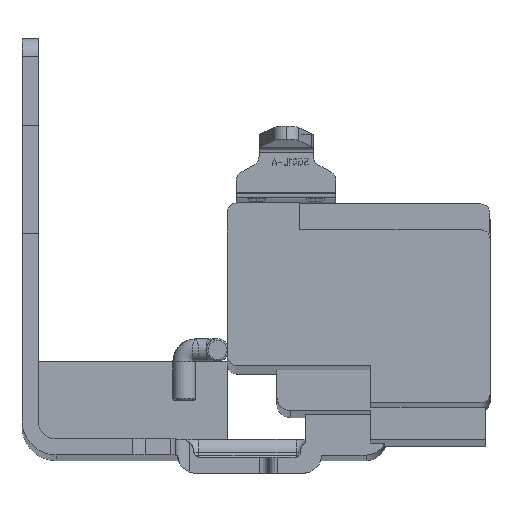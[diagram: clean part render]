
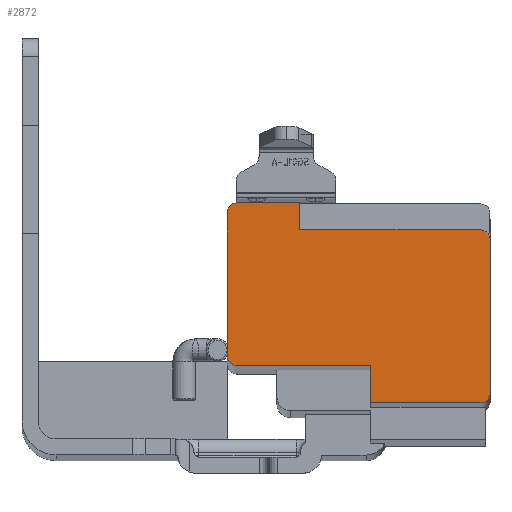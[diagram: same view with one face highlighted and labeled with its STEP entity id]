
A CAD part, top view. The second image highlights one B-rep face of the part: STEP entity #2872.
In plain terms, the highlighted planar face has unit normal (0, 0, 1).
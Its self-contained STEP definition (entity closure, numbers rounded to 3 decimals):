
#36 = ORIENTED_EDGE ( 'NONE', *, *, #3707, .T. ) ;
#69 = CARTESIAN_POINT ( 'NONE',  ( 10.55, 4., 494.3 ) ) ;
#104 = DIRECTION ( 'NONE',  ( 1., 0., 0. ) ) ;
#221 = EDGE_CURVE ( 'NONE', #6530, #4177, #3631, .T. ) ;
#302 = VERTEX_POINT ( 'NONE', #2744 ) ;
#541 = EDGE_CURVE ( 'NONE', #9667, #618, #10396, .T. ) ;
#618 = VERTEX_POINT ( 'NONE', #1539 ) ;
#722 = CIRCLE ( 'NONE', #1999, 1. ) ;
#746 = CARTESIAN_POINT ( 'NONE',  ( 30.58, -18.1, 494.3 ) ) ;
#1022 = VECTOR ( 'NONE', #3388, 1000. ) ;
#1171 = AXIS2_PLACEMENT_3D ( 'NONE', #3830, #10141, #4722 ) ;
#1539 = CARTESIAN_POINT ( 'NONE',  ( 10.55, 1., 494.3 ) ) ;
#1578 = CARTESIAN_POINT ( 'NONE',  ( 30.61, 1., 494.3 ) ) ;
#1748 = ORIENTED_EDGE ( 'NONE', *, *, #541, .F. ) ;
#1884 = CARTESIAN_POINT ( 'NONE',  ( 3.55, 4., 494.3 ) ) ;
#1956 = CIRCLE ( 'NONE', #8742, 1. ) ;
#1999 = AXIS2_PLACEMENT_3D ( 'NONE', #10891, #5477, #104 ) ;
#2110 = CARTESIAN_POINT ( 'NONE',  ( 2.55, 0., 494.3 ) ) ;
#2253 = CARTESIAN_POINT ( 'NONE',  ( 2.55, 3., 494.3 ) ) ;
#2274 = CARTESIAN_POINT ( 'NONE',  ( 18.38, -14., 494.3 ) ) ;
#2336 = EDGE_CURVE ( 'NONE', #5685, #4144, #7252, .T. ) ;
#2348 = LINE ( 'NONE', #3896, #9268 ) ;
#2449 = CARTESIAN_POINT ( 'NONE',  ( 10.55, 4., 494.3 ) ) ;
#2566 = LINE ( 'NONE', #4579, #7075 ) ;
#2595 = VERTEX_POINT ( 'NONE', #3274 ) ;
#2744 = CARTESIAN_POINT ( 'NONE',  ( 31.58, -17.1, 494.3 ) ) ;
#2803 = DIRECTION ( 'NONE',  ( 0., 0., 1. ) ) ;
#2872 = ADVANCED_FACE ( 'NONE', ( #9911 ), #4947, .T. ) ;
#2934 = LINE ( 'NONE', #10451, #9834 ) ;
#2992 = DIRECTION ( 'NONE',  ( 0., -1., 0. ) ) ;
#3151 = EDGE_CURVE ( 'NONE', #2595, #302, #5518, .T. ) ;
#3205 = VECTOR ( 'NONE', #10898, 1000. ) ;
#3270 = VERTEX_POINT ( 'NONE', #10241 ) ;
#3274 = CARTESIAN_POINT ( 'NONE',  ( 31.58, 0.03, 494.3 ) ) ;
#3278 = AXIS2_PLACEMENT_3D ( 'NONE', #8844, #3421, #9734 ) ;
#3388 = DIRECTION ( 'NONE',  ( -1., 0., 0. ) ) ;
#3396 = ORIENTED_EDGE ( 'NONE', *, *, #7003, .T. ) ;
#3416 = LINE ( 'NONE', #2449, #1022 ) ;
#3421 = DIRECTION ( 'NONE',  ( 0., 0., 1. ) ) ;
#3448 = ORIENTED_EDGE ( 'NONE', *, *, #10780, .T. ) ;
#3631 = LINE ( 'NONE', #6454, #6012 ) ;
#3707 = EDGE_CURVE ( 'NONE', #2595, #5527, #5162, .T. ) ;
#3776 = LINE ( 'NONE', #2110, #8591 ) ;
#3784 = DIRECTION ( 'NONE',  ( 0., -1., 0. ) ) ;
#3830 = CARTESIAN_POINT ( 'NONE',  ( 3.55, 3., 494.3 ) ) ;
#3833 = EDGE_CURVE ( 'NONE', #3270, #4069, #1956, .T. ) ;
#3896 = CARTESIAN_POINT ( 'NONE',  ( 0., -14., 494.3 ) ) ;
#4069 = VERTEX_POINT ( 'NONE', #5677 ) ;
#4127 = DIRECTION ( 'NONE',  ( -1., 0., 0. ) ) ;
#4144 = VERTEX_POINT ( 'NONE', #2253 ) ;
#4177 = VERTEX_POINT ( 'NONE', #7687 ) ;
#4579 = CARTESIAN_POINT ( 'NONE',  ( 0., 1., 494.3 ) ) ;
#4722 = DIRECTION ( 'NONE',  ( 1., 0., 0. ) ) ;
#4947 = PLANE ( 'NONE',  #8216 ) ;
#4984 = DIRECTION ( 'NONE',  ( 1., 0., 0. ) ) ;
#5162 = CIRCLE ( 'NONE', #3278, 0.97 ) ;
#5224 = EDGE_CURVE ( 'NONE', #4069, #6530, #2348, .T. ) ;
#5477 = DIRECTION ( 'NONE',  ( 0., 0., 1. ) ) ;
#5510 = DIRECTION ( 'NONE',  ( 1., 0., 0. ) ) ;
#5518 = LINE ( 'NONE', #9196, #10338 ) ;
#5527 = VERTEX_POINT ( 'NONE', #1578 ) ;
#5677 = CARTESIAN_POINT ( 'NONE',  ( 3.55, -14., 494.3 ) ) ;
#5685 = VERTEX_POINT ( 'NONE', #1884 ) ;
#6012 = VECTOR ( 'NONE', #10989, 1000. ) ;
#6454 = CARTESIAN_POINT ( 'NONE',  ( 18.38, 0., 494.3 ) ) ;
#6530 = VERTEX_POINT ( 'NONE', #2274 ) ;
#7003 = EDGE_CURVE ( 'NONE', #4144, #3270, #3776, .T. ) ;
#7075 = VECTOR ( 'NONE', #5510, 1000. ) ;
#7121 = ORIENTED_EDGE ( 'NONE', *, *, #8172, .F. ) ;
#7252 = CIRCLE ( 'NONE', #1171, 1. ) ;
#7423 = ORIENTED_EDGE ( 'NONE', *, *, #2336, .T. ) ;
#7559 = ORIENTED_EDGE ( 'NONE', *, *, #221, .T. ) ;
#7687 = CARTESIAN_POINT ( 'NONE',  ( 18.38, -18.1, 494.3 ) ) ;
#7700 = CARTESIAN_POINT ( 'NONE',  ( 0., 0., 494.3 ) ) ;
#8047 = EDGE_LOOP ( 'NONE', ( #10886, #36, #10191, #1748, #11065, #7423, #3396, #9888, #8913, #7559, #7121, #3448 ) ) ;
#8172 = EDGE_CURVE ( 'NONE', #8993, #4177, #2934, .T. ) ;
#8216 = AXIS2_PLACEMENT_3D ( 'NONE', #7700, #10411, #4984 ) ;
#8228 = CARTESIAN_POINT ( 'NONE',  ( 3.55, -13., 494.3 ) ) ;
#8591 = VECTOR ( 'NONE', #2992, 1000. ) ;
#8742 = AXIS2_PLACEMENT_3D ( 'NONE', #8228, #2803, #9107 ) ;
#8844 = CARTESIAN_POINT ( 'NONE',  ( 30.61, 0.03, 494.3 ) ) ;
#8913 = ORIENTED_EDGE ( 'NONE', *, *, #5224, .T. ) ;
#8993 = VERTEX_POINT ( 'NONE', #746 ) ;
#9107 = DIRECTION ( 'NONE',  ( 1., 0., 0. ) ) ;
#9196 = CARTESIAN_POINT ( 'NONE',  ( 31.58, 0., 494.3 ) ) ;
#9268 = VECTOR ( 'NONE', #10204, 1000. ) ;
#9667 = VERTEX_POINT ( 'NONE', #69 ) ;
#9734 = DIRECTION ( 'NONE',  ( 1., 0., 0. ) ) ;
#9834 = VECTOR ( 'NONE', #4127, 1000. ) ;
#9888 = ORIENTED_EDGE ( 'NONE', *, *, #3833, .T. ) ;
#9911 = FACE_OUTER_BOUND ( 'NONE', #8047, .T. ) ;
#10123 = CARTESIAN_POINT ( 'NONE',  ( 10.55, 0., 494.3 ) ) ;
#10141 = DIRECTION ( 'NONE',  ( 0., 0., 1. ) ) ;
#10191 = ORIENTED_EDGE ( 'NONE', *, *, #10799, .F. ) ;
#10204 = DIRECTION ( 'NONE',  ( 1., 0., 0. ) ) ;
#10241 = CARTESIAN_POINT ( 'NONE',  ( 2.55, -13., 494.3 ) ) ;
#10285 = EDGE_CURVE ( 'NONE', #9667, #5685, #3416, .T. ) ;
#10338 = VECTOR ( 'NONE', #3784, 1000. ) ;
#10396 = LINE ( 'NONE', #10123, #3205 ) ;
#10411 = DIRECTION ( 'NONE',  ( 0., 0., 1. ) ) ;
#10451 = CARTESIAN_POINT ( 'NONE',  ( 0., -18.1, 494.3 ) ) ;
#10780 = EDGE_CURVE ( 'NONE', #8993, #302, #722, .T. ) ;
#10799 = EDGE_CURVE ( 'NONE', #618, #5527, #2566, .T. ) ;
#10886 = ORIENTED_EDGE ( 'NONE', *, *, #3151, .F. ) ;
#10891 = CARTESIAN_POINT ( 'NONE',  ( 30.58, -17.1, 494.3 ) ) ;
#10898 = DIRECTION ( 'NONE',  ( 0., -1., 0. ) ) ;
#10989 = DIRECTION ( 'NONE',  ( 0., -1., 0. ) ) ;
#11065 = ORIENTED_EDGE ( 'NONE', *, *, #10285, .T. ) ;
